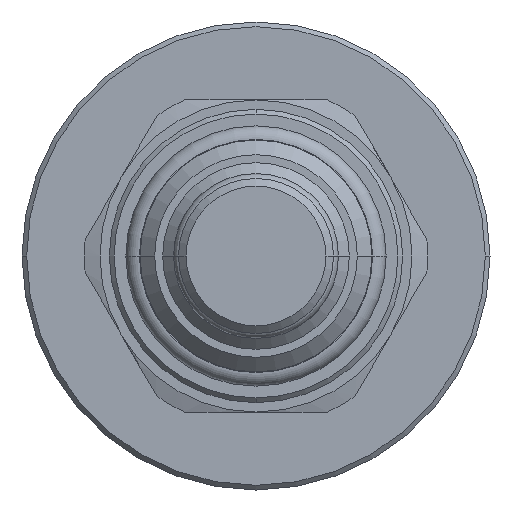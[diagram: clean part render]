
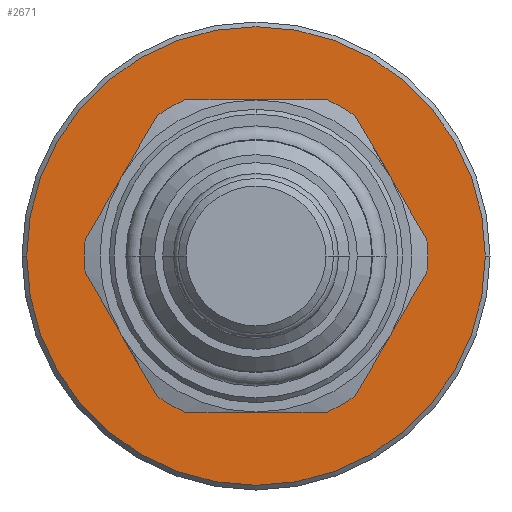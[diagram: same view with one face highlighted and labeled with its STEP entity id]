
A CAD part, front view. The second image highlights one B-rep face of the part: STEP entity #2671.
In plain terms, the highlighted planar face has unit normal (0, -1, 0).
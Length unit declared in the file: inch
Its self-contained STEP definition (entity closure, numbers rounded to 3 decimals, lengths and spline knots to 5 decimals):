
#303=CARTESIAN_POINT('',(0.,2.1245,0.));
#304=DIRECTION('',(0.,1.,0.));
#305=DIRECTION('',(1.,0.,0.));
#306=AXIS2_PLACEMENT_3D('',#303,#304,#305);
#308=CARTESIAN_POINT('',(0.,2.1245,0.));
#309=DIRECTION('',(0.,1.,0.));
#310=DIRECTION('',(-1.,0.,0.));
#311=AXIS2_PLACEMENT_3D('',#308,#309,#310);
#313=CARTESIAN_POINT('',(0.,2.1245,0.));
#314=DIRECTION('',(0.,-1.,0.));
#315=DIRECTION('',(-1.,0.,0.));
#316=AXIS2_PLACEMENT_3D('',#313,#314,#315);
#318=CARTESIAN_POINT('',(0.,2.1245,0.));
#319=DIRECTION('',(0.,-1.,0.));
#320=DIRECTION('',(1.,0.,0.));
#321=AXIS2_PLACEMENT_3D('',#318,#319,#320);
#1815=CARTESIAN_POINT('',(0.735,2.1245,0.));
#1816=CARTESIAN_POINT('',(-0.735,2.1245,0.));
#1817=VERTEX_POINT('',#1815);
#1818=VERTEX_POINT('',#1816);
#1819=CARTESIAN_POINT('',(-0.375,2.1245,0.));
#1820=CARTESIAN_POINT('',(0.375,2.1245,0.));
#1821=VERTEX_POINT('',#1819);
#1822=VERTEX_POINT('',#1820);
#2655=CARTESIAN_POINT('',(0.,2.1245,0.));
#2656=DIRECTION('',(0.,-1.,0.));
#2657=DIRECTION('',(-1.,0.,0.));
#2658=AXIS2_PLACEMENT_3D('',#2655,#2656,#2657);
#2659=PLANE('',#2658);
#2660=ORIENTED_EDGE('',*,*,#2645,.T.);
#2662=ORIENTED_EDGE('',*,*,#2661,.T.);
#2663=EDGE_LOOP('',(#2660,#2662));
#2664=FACE_OUTER_BOUND('',#2663,.F.);
#2666=ORIENTED_EDGE('',*,*,#2665,.T.);
#2668=ORIENTED_EDGE('',*,*,#2667,.T.);
#2669=EDGE_LOOP('',(#2666,#2668));
#2670=FACE_BOUND('',#2669,.F.);
#2671=ADVANCED_FACE('',(#2664,#2670),#2659,.T.);
#307=CIRCLE('',#306,0.735);
#312=CIRCLE('',#311,0.735);
#317=CIRCLE('',#316,0.375);
#322=CIRCLE('',#321,0.375);
#2645=EDGE_CURVE('',#1817,#1818,#307,.T.);
#2661=EDGE_CURVE('',#1818,#1817,#312,.T.);
#2665=EDGE_CURVE('',#1821,#1822,#317,.T.);
#2667=EDGE_CURVE('',#1822,#1821,#322,.T.);
